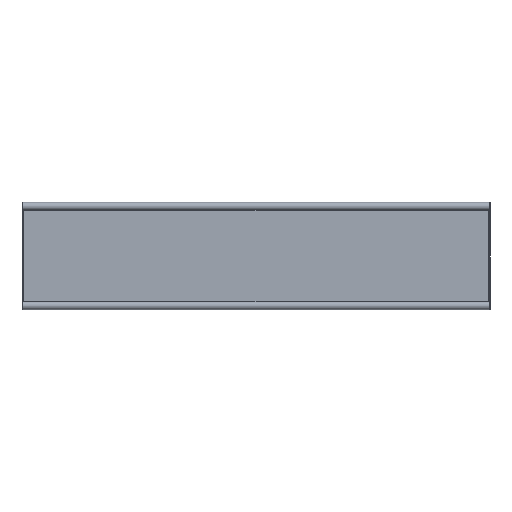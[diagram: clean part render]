
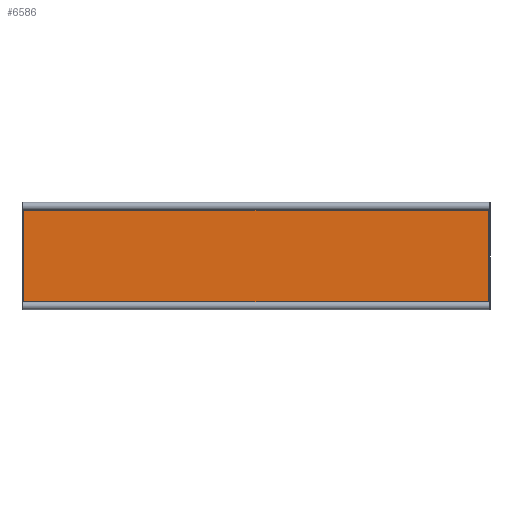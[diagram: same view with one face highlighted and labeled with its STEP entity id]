
A CAD part, front view. The second image highlights one B-rep face of the part: STEP entity #6586.
In plain terms, the highlighted planar face has unit normal (0, -1, 0).
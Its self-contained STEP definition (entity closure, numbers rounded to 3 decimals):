
#312 = VERTEX_POINT ( 'NONE', #4888 ) ;
#481 = ORIENTED_EDGE ( 'NONE', *, *, #499, .F. ) ;
#499 = EDGE_CURVE ( 'NONE', #312, #4508, #3248, .T. ) ;
#510 = CARTESIAN_POINT ( 'NONE',  ( 596., -2., -132.5 ) ) ;
#518 = ORIENTED_EDGE ( 'NONE', *, *, #2408, .F. ) ;
#747 = EDGE_CURVE ( 'NONE', #1417, #3065, #914, .T. ) ;
#890 = CARTESIAN_POINT ( 'NONE',  ( 599., -2., 136.5 ) ) ;
#914 = LINE ( 'NONE', #9483, #6932 ) ;
#1057 = AXIS2_PLACEMENT_3D ( 'NONE', #890, #7611, #9112 ) ;
#1148 = CARTESIAN_POINT ( 'NONE',  ( 599., -2., -136.5 ) ) ;
#1169 = DIRECTION ( 'NONE',  ( 0., 1., 0. ) ) ;
#1199 = AXIS2_PLACEMENT_3D ( 'NONE', #9829, #7431, #7633 ) ;
#1417 = VERTEX_POINT ( 'NONE', #510 ) ;
#2113 = DIRECTION ( 'NONE',  ( 1., 0., 0. ) ) ;
#2396 = CARTESIAN_POINT ( 'NONE',  ( 595., -2., -133.5 ) ) ;
#2408 = EDGE_CURVE ( 'NONE', #1417, #9580, #6952, .T. ) ;
#2590 = EDGE_CURVE ( 'NONE', #4981, #9580, #4542, .T. ) ;
#3009 = CARTESIAN_POINT ( 'NONE',  ( -599., -2., -133.5 ) ) ;
#3065 = VERTEX_POINT ( 'NONE', #6768 ) ;
#3248 = CIRCLE ( 'NONE', #8845, 5. ) ;
#3289 = CARTESIAN_POINT ( 'NONE',  ( -599., -2., -136.5 ) ) ;
#3381 = CARTESIAN_POINT ( 'NONE',  ( -595., -2., 133.5 ) ) ;
#3448 = VERTEX_POINT ( 'NONE', #3490 ) ;
#3490 = CARTESIAN_POINT ( 'NONE',  ( 595., -2., 133.5 ) ) ;
#3819 = EDGE_CURVE ( 'NONE', #4981, #8054, #7766, .T. ) ;
#3820 = EDGE_CURVE ( 'NONE', #4508, #3448, #6019, .T. ) ;
#3881 = EDGE_CURVE ( 'NONE', #8054, #312, #7830, .T. ) ;
#4009 = ORIENTED_EDGE ( 'NONE', *, *, #3820, .F. ) ;
#4062 = VECTOR ( 'NONE', #7418, 1000. ) ;
#4108 = DIRECTION ( 'NONE',  ( 0., 0., 1. ) ) ;
#4166 = EDGE_LOOP ( 'NONE', ( #518, #8720, #9561, #4009, #481, #7648, #6722, #6355 ) ) ;
#4508 = VERTEX_POINT ( 'NONE', #3381 ) ;
#4542 = LINE ( 'NONE', #3009, #4062 ) ;
#4554 = CARTESIAN_POINT ( 'NONE',  ( -599., -2., 133.5 ) ) ;
#4874 = DIRECTION ( 'NONE',  ( 0., -1., 0. ) ) ;
#4888 = CARTESIAN_POINT ( 'NONE',  ( -596., -2., 132.5 ) ) ;
#4981 = VERTEX_POINT ( 'NONE', #6960 ) ;
#5362 = CIRCLE ( 'NONE', #1057, 5. ) ;
#6019 = LINE ( 'NONE', #4554, #7136 ) ;
#6355 = ORIENTED_EDGE ( 'NONE', *, *, #2590, .T. ) ;
#6402 = CARTESIAN_POINT ( 'NONE',  ( -596., -2., -132.5 ) ) ;
#6477 = AXIS2_PLACEMENT_3D ( 'NONE', #1148, #8862, #7188 ) ;
#6502 = AXIS2_PLACEMENT_3D ( 'NONE', #3289, #1169, #7157 ) ;
#6586 = ADVANCED_FACE ( 'NONE', ( #8742 ), #8646, .F. ) ;
#6722 = ORIENTED_EDGE ( 'NONE', *, *, #3819, .F. ) ;
#6768 = CARTESIAN_POINT ( 'NONE',  ( 596., -2., 132.5 ) ) ;
#6932 = VECTOR ( 'NONE', #4108, 1000. ) ;
#6952 = CIRCLE ( 'NONE', #6477, 5. ) ;
#6960 = CARTESIAN_POINT ( 'NONE',  ( -595., -2., -133.5 ) ) ;
#7045 = DIRECTION ( 'NONE',  ( 0., 0., 1. ) ) ;
#7136 = VECTOR ( 'NONE', #2113, 1000. ) ;
#7157 = DIRECTION ( 'NONE',  ( 0., 0., 1. ) ) ;
#7188 = DIRECTION ( 'NONE',  ( 0., 0., 1. ) ) ;
#7243 = CARTESIAN_POINT ( 'NONE',  ( -599., -2., 136.5 ) ) ;
#7418 = DIRECTION ( 'NONE',  ( 1., 0., 0. ) ) ;
#7431 = DIRECTION ( 'NONE',  ( 0., -1., 0. ) ) ;
#7611 = DIRECTION ( 'NONE',  ( 0., -1., 0. ) ) ;
#7633 = DIRECTION ( 'NONE',  ( 0., 0., 1. ) ) ;
#7648 = ORIENTED_EDGE ( 'NONE', *, *, #3881, .F. ) ;
#7709 = EDGE_CURVE ( 'NONE', #3448, #3065, #5362, .T. ) ;
#7766 = CIRCLE ( 'NONE', #1199, 5. ) ;
#7830 = LINE ( 'NONE', #9231, #9682 ) ;
#8054 = VERTEX_POINT ( 'NONE', #6402 ) ;
#8571 = DIRECTION ( 'NONE',  ( 0., 0., 1. ) ) ;
#8646 = PLANE ( 'NONE',  #6502 ) ;
#8720 = ORIENTED_EDGE ( 'NONE', *, *, #747, .T. ) ;
#8742 = FACE_OUTER_BOUND ( 'NONE', #4166, .T. ) ;
#8845 = AXIS2_PLACEMENT_3D ( 'NONE', #7243, #4874, #7045 ) ;
#8862 = DIRECTION ( 'NONE',  ( 0., -1., 0. ) ) ;
#9112 = DIRECTION ( 'NONE',  ( 0., 0., 1. ) ) ;
#9231 = CARTESIAN_POINT ( 'NONE',  ( -596., -2., -136.5 ) ) ;
#9483 = CARTESIAN_POINT ( 'NONE',  ( 596., -2., -136.5 ) ) ;
#9561 = ORIENTED_EDGE ( 'NONE', *, *, #7709, .F. ) ;
#9580 = VERTEX_POINT ( 'NONE', #2396 ) ;
#9682 = VECTOR ( 'NONE', #8571, 1000. ) ;
#9829 = CARTESIAN_POINT ( 'NONE',  ( -599., -2., -136.5 ) ) ;
